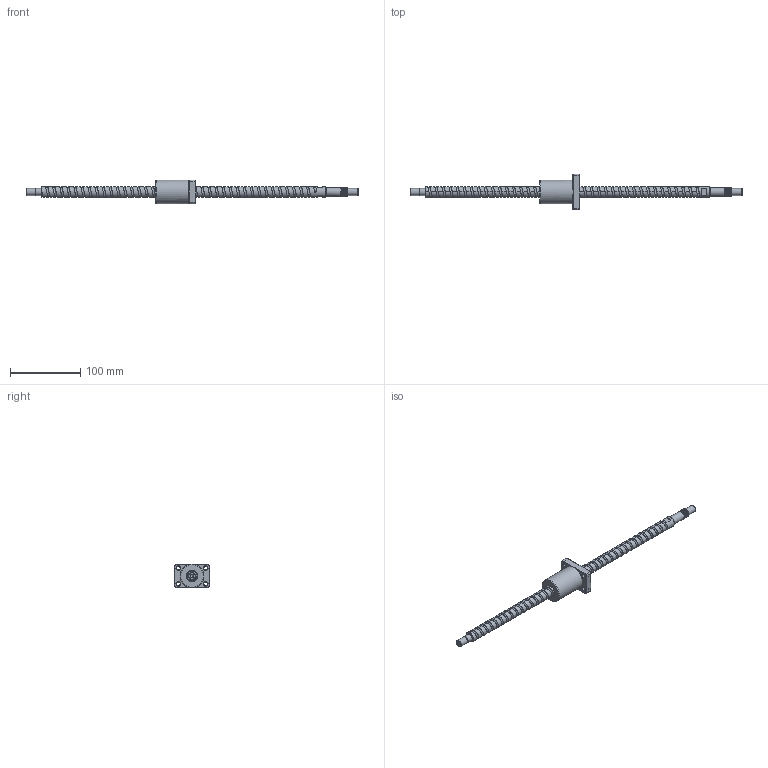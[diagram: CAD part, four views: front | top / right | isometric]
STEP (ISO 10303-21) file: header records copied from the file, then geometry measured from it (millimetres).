
FILE_DESCRIPTION (( 'STEP AP203' ), '1' );
FILE_NAME ('XSVR01510B1DGC5-471-P1.step', '2024-06-03T05:10:26', ( '' ), ( '' ), 'SwSTEP 2.0', 'SolidWorks 2022', '' );
FILE_SCHEMA (( 'CONFIG_CONTROL_DESIGN' ));
Length unit declared in the file: millimetre
Products named in the file (1): XSVR01510B1DGC5-471-P1
Bounding box: 471 x 50 x 34 mm (x, y, z)
Volume: 116471.9 mm3; surface area: 37182.2 mm2
Topology: 2 solids, 2 shells, 169 faces, 455 edges, 296 vertices
Faces by surface type: cylinder 92, plane 43, cone 15, bspline 10, torus 9
Full cylindrical faces by diameter (mm): 4 x1, 4.2 x15, 5 x6, 5.5 x4, 9.5 x4, 9.6 x1, 10 x3, 12 x9, 15 x39, 16.7 x1, 34 x1
Entity records: 19708 total; most frequent: CARTESIAN_POINT 17584, ORIENTED_EDGE 402, DIRECTION 391, EDGE_CURVE 201, AXIS2_PLACEMENT_3D 168, EDGE_LOOP 153, VERTEX_POINT 146, FACE_OUTER_BOUND 120
